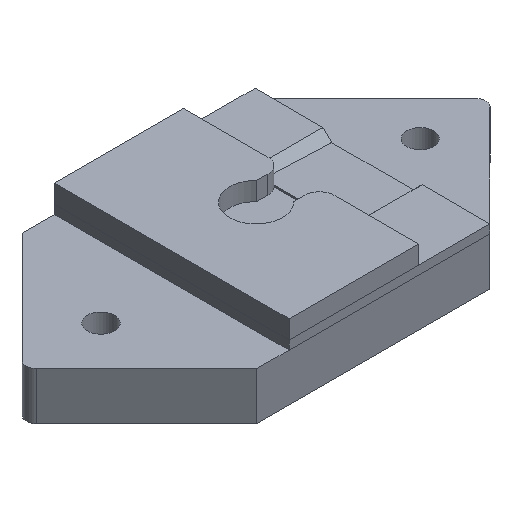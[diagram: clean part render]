
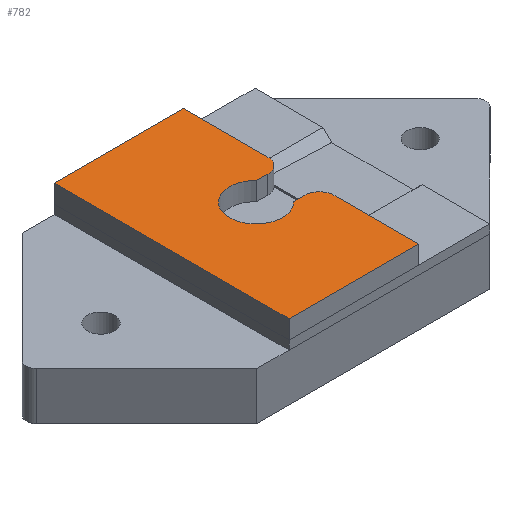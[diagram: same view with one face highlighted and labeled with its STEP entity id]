
A CAD part, isometric view. The second image highlights one B-rep face of the part: STEP entity #782.
In plain terms, the highlighted planar face has unit normal (0, 0, 1).
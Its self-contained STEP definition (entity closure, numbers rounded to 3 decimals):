
#555 = VERTEX_POINT('',#556);
#556 = CARTESIAN_POINT('',(-11.5,16.,3.7));
#562 = EDGE_CURVE('',#555,#563,#565,.T.);
#563 = VERTEX_POINT('',#564);
#564 = CARTESIAN_POINT('',(6.125,16.,3.7));
#565 = LINE('',#566,#567);
#566 = CARTESIAN_POINT('',(-11.5,16.,3.7));
#567 = VECTOR('',#568,1.);
#568 = DIRECTION('',(1.,0.,0.));
#642 = EDGE_CURVE('',#555,#643,#645,.T.);
#643 = VERTEX_POINT('',#644);
#644 = CARTESIAN_POINT('',(-11.5,-16.,3.7));
#645 = LINE('',#646,#647);
#646 = CARTESIAN_POINT('',(-11.5,16.,3.7));
#647 = VECTOR('',#648,1.);
#648 = DIRECTION('',(0.,-1.,0.));
#757 = VERTEX_POINT('',#758);
#758 = CARTESIAN_POINT('',(6.125,4.5,3.7));
#764 = EDGE_CURVE('',#757,#563,#765,.T.);
#765 = LINE('',#766,#767);
#766 = CARTESIAN_POINT('',(6.125,4.5,3.7));
#767 = VECTOR('',#768,1.);
#768 = DIRECTION('',(0.,1.,0.));
#782 = ADVANCED_FACE('',(#783),#845,.T.);
#783 = FACE_BOUND('',#784,.T.);
#784 = EDGE_LOOP('',(#785,#786,#794,#802,#811,#819,#828,#836,#843,#844)
  );
#785 = ORIENTED_EDGE('',*,*,#642,.T.);
#786 = ORIENTED_EDGE('',*,*,#787,.T.);
#787 = EDGE_CURVE('',#643,#788,#790,.T.);
#788 = VERTEX_POINT('',#789);
#789 = CARTESIAN_POINT('',(6.125,-16.,3.7));
#790 = LINE('',#791,#792);
#791 = CARTESIAN_POINT('',(-11.5,-16.,3.7));
#792 = VECTOR('',#793,1.);
#793 = DIRECTION('',(1.,0.,0.));
#794 = ORIENTED_EDGE('',*,*,#795,.T.);
#795 = EDGE_CURVE('',#788,#796,#798,.T.);
#796 = VERTEX_POINT('',#797);
#797 = CARTESIAN_POINT('',(6.125,-4.5,3.7));
#798 = LINE('',#799,#800);
#799 = CARTESIAN_POINT('',(6.125,-16.,3.7));
#800 = VECTOR('',#801,1.);
#801 = DIRECTION('',(0.,1.,0.));
#802 = ORIENTED_EDGE('',*,*,#803,.T.);
#803 = EDGE_CURVE('',#796,#804,#806,.T.);
#804 = VERTEX_POINT('',#805);
#805 = CARTESIAN_POINT('',(4.125,-2.5,3.7));
#806 = CIRCLE('',#807,2.);
#807 = AXIS2_PLACEMENT_3D('',#808,#809,#810);
#808 = CARTESIAN_POINT('',(4.125,-4.5,3.7));
#809 = DIRECTION('',(0.,0.,1.));
#810 = DIRECTION('',(1.,0.,0.));
#811 = ORIENTED_EDGE('',*,*,#812,.T.);
#812 = EDGE_CURVE('',#804,#813,#815,.T.);
#813 = VERTEX_POINT('',#814);
#814 = CARTESIAN_POINT('',(2.625,-2.5,3.7));
#815 = LINE('',#816,#817);
#816 = CARTESIAN_POINT('',(4.125,-2.5,3.7));
#817 = VECTOR('',#818,1.);
#818 = DIRECTION('',(-1.,0.,0.));
#819 = ORIENTED_EDGE('',*,*,#820,.F.);
#820 = EDGE_CURVE('',#821,#813,#823,.T.);
#821 = VERTEX_POINT('',#822);
#822 = CARTESIAN_POINT('',(2.625,2.5,3.7));
#823 = CIRCLE('',#824,3.625);
#824 = AXIS2_PLACEMENT_3D('',#825,#826,#827);
#825 = CARTESIAN_POINT('',(0.,0.,3.7));
#826 = DIRECTION('',(0.,0.,1.));
#827 = DIRECTION('',(1.,0.,0.));
#828 = ORIENTED_EDGE('',*,*,#829,.T.);
#829 = EDGE_CURVE('',#821,#830,#832,.T.);
#830 = VERTEX_POINT('',#831);
#831 = CARTESIAN_POINT('',(4.125,2.5,3.7));
#832 = LINE('',#833,#834);
#833 = CARTESIAN_POINT('',(2.625,2.5,3.7));
#834 = VECTOR('',#835,1.);
#835 = DIRECTION('',(1.,0.,0.));
#836 = ORIENTED_EDGE('',*,*,#837,.T.);
#837 = EDGE_CURVE('',#830,#757,#838,.T.);
#838 = CIRCLE('',#839,2.);
#839 = AXIS2_PLACEMENT_3D('',#840,#841,#842);
#840 = CARTESIAN_POINT('',(4.125,4.5,3.7));
#841 = DIRECTION('',(0.,0.,1.));
#842 = DIRECTION('',(1.,0.,0.));
#843 = ORIENTED_EDGE('',*,*,#764,.T.);
#844 = ORIENTED_EDGE('',*,*,#562,.F.);
#845 = PLANE('',#846);
#846 = AXIS2_PLACEMENT_3D('',#847,#848,#849);
#847 = CARTESIAN_POINT('',(-2.532,0.,3.7));
#848 = DIRECTION('',(0.,0.,1.));
#849 = DIRECTION('',(1.,0.,0.));
